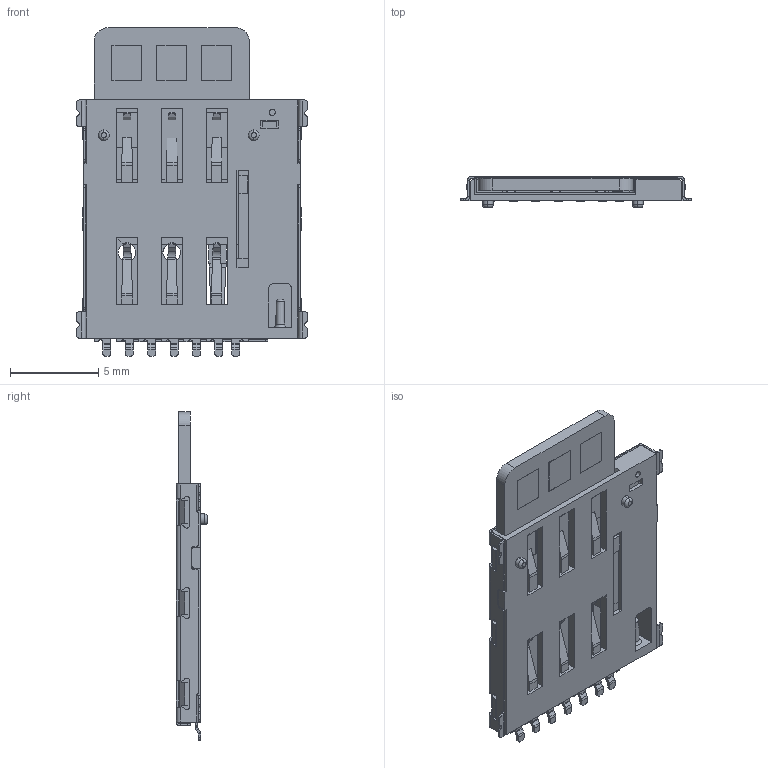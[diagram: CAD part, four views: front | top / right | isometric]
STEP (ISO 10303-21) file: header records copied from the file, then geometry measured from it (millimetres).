
FILE_DESCRIPTION((''),'2;1');
FILE_NAME('NAON_SIM_CARD_1_35H_ASM','2016-07-28T',('Administrator'),(''),'PRO/ENGINEER BY PARAMETRIC TECHNOLOGY CORPORATION, 2008380','PRO/ENGINEER BY PARAMETRIC TECHNOLOGY CORPORATION, 2008380','');
FILE_SCHEMA(('CONFIG_CONTROL_DESIGN'));
Length unit declared in the file: millimetre
Products named in the file (1): NAON_SIM_CARD_1_35H_ASM
Bounding box: 13.09 x 1.77 x 18.63 mm (x, y, z)
Volume: 172.3 mm3; surface area: 935.4 mm2
Topology: 1 solids, 2 shells, 965 faces, 2491 edges, 1533 vertices
Faces by surface type: plane 658, cylinder 272, bspline 22, torus 8, cone 5
Entity records: 29555 total; most frequent: CARTESIAN_POINT 5814, ORIENTED_EDGE 4980, DIRECTION 4851, EDGE_CURVE 2491, VECTOR 1899, LINE 1899, VERTEX_POINT 1533, AXIS2_PLACEMENT_3D 1476
